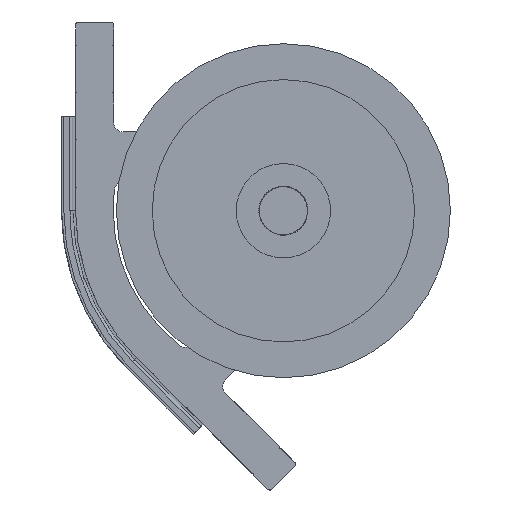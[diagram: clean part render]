
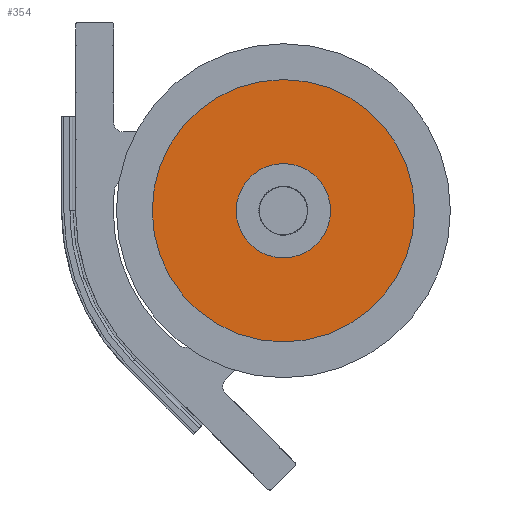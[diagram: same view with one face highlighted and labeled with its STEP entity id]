
A CAD part, front view. The second image highlights one B-rep face of the part: STEP entity #354.
In plain terms, the highlighted planar face has unit normal (0, -1, 0).
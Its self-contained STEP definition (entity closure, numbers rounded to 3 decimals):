
#354 = ADVANCED_FACE ( 'NONE', ( #9966, #9753 ), #23256, .T. ) ;
#1325 = EDGE_CURVE ( 'NONE', #2652, #2644, #6282, .T. ) ;
#1335 = EDGE_CURVE ( 'NONE', #2817, #2676, #6297, .T. ) ;
#1340 = EDGE_CURVE ( 'NONE', #2676, #2817, #6302, .T. ) ;
#1346 = EDGE_CURVE ( 'NONE', #2644, #2652, #6309, .T. ) ;
#2644 = VERTEX_POINT ( 'NONE', #18324 ) ;
#2652 = VERTEX_POINT ( 'NONE', #18332 ) ;
#2676 = VERTEX_POINT ( 'NONE', #18356 ) ;
#2817 = VERTEX_POINT ( 'NONE', #18497 ) ;
#4128 = ORIENTED_EDGE ( 'NONE', *, *, #1325, .F. ) ;
#4131 = ORIENTED_EDGE ( 'NONE', *, *, #1346, .F. ) ;
#4133 = ORIENTED_EDGE ( 'NONE', *, *, #1335, .T. ) ;
#4134 = ORIENTED_EDGE ( 'NONE', *, *, #1340, .T. ) ;
#4503 = AXIS2_PLACEMENT_3D ( 'NONE', #23848, #23881, #23773 ) ;
#5850 = AXIS2_PLACEMENT_3D ( 'NONE', #11081, #11082, #11083 ) ;
#5855 = AXIS2_PLACEMENT_3D ( 'NONE', #11106, #11107, #11108 ) ;
#5859 = AXIS2_PLACEMENT_3D ( 'NONE', #11120, #11121, #11122 ) ;
#5865 = AXIS2_PLACEMENT_3D ( 'NONE', #11138, #11139, #11140 ) ;
#6282 = CIRCLE ( 'NONE', #5850, 139. ) ;
#6297 = CIRCLE ( 'NONE', #5855, 50. ) ;
#6302 = CIRCLE ( 'NONE', #5859, 50. ) ;
#6309 = CIRCLE ( 'NONE', #5865, 139. ) ;
#9641 = EDGE_LOOP ( 'NONE', ( #4128, #4131 ) ) ;
#9667 = EDGE_LOOP ( 'NONE', ( #4133, #4134 ) ) ;
#9753 = FACE_BOUND ( 'NONE', #9667, .T. ) ;
#9966 = FACE_OUTER_BOUND ( 'NONE', #9641, .T. ) ;
#11081 = CARTESIAN_POINT ( 'NONE',  ( 235., -51.5, -100. ) ) ;
#11082 = DIRECTION ( 'NONE',  ( 0., 1., 0. ) ) ;
#11083 = DIRECTION ( 'NONE',  ( -1., 0., 0. ) ) ;
#11106 = CARTESIAN_POINT ( 'NONE',  ( 235., -51.5, -100. ) ) ;
#11107 = DIRECTION ( 'NONE',  ( 0., 1., 0. ) ) ;
#11108 = DIRECTION ( 'NONE',  ( -1., 0., 0. ) ) ;
#11120 = CARTESIAN_POINT ( 'NONE',  ( 235., -51.5, -100. ) ) ;
#11121 = DIRECTION ( 'NONE',  ( 0., 1., 0. ) ) ;
#11122 = DIRECTION ( 'NONE',  ( -1., 0., 0. ) ) ;
#11138 = CARTESIAN_POINT ( 'NONE',  ( 235., -51.5, -100. ) ) ;
#11139 = DIRECTION ( 'NONE',  ( 0., 1., 0. ) ) ;
#11140 = DIRECTION ( 'NONE',  ( -1., 0., 0. ) ) ;
#18324 = CARTESIAN_POINT ( 'NONE',  ( 374., -51.5, -100. ) ) ;
#18332 = CARTESIAN_POINT ( 'NONE',  ( 96., -51.5, -100. ) ) ;
#18356 = CARTESIAN_POINT ( 'NONE',  ( 285., -51.5, -100. ) ) ;
#18497 = CARTESIAN_POINT ( 'NONE',  ( 185., -51.5, -100. ) ) ;
#23256 = PLANE ( 'NONE',  #4503 ) ;
#23773 = DIRECTION ( 'NONE',  ( 1., 0., 0. ) ) ;
#23848 = CARTESIAN_POINT ( 'NONE',  ( 96., -51.5, -100. ) ) ;
#23881 = DIRECTION ( 'NONE',  ( 0., -1., 0. ) ) ;
